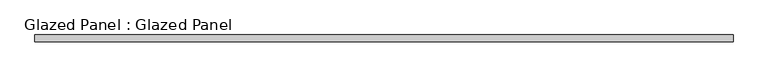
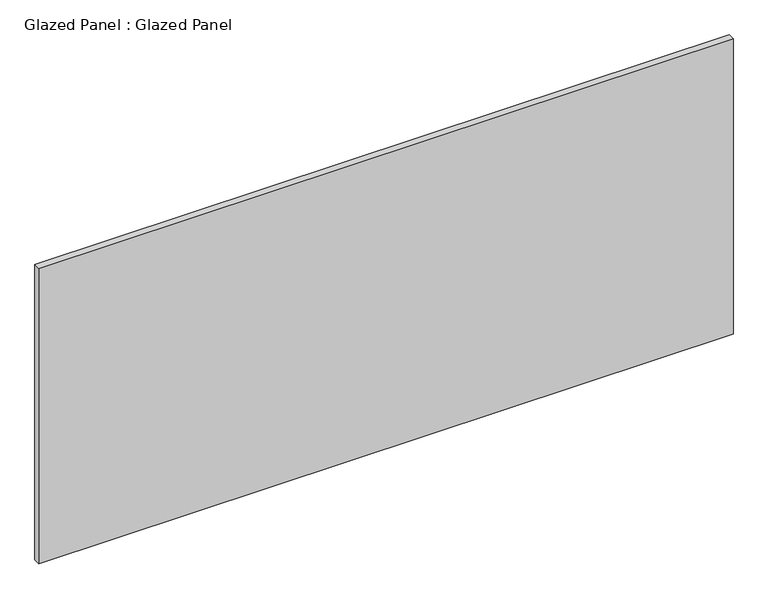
"""IFC4 building model written with IfcOpenShell, lengths in millimetres: plate geometry, Glazed Panel : Glazed Panel."""

from ifc_helpers import new_model, si_unit, origin, origin_with_axes, place, context, project, spatial, polyline, outline, extrude, source, transform, mapped, element, save


def glazed_panel_glazed_panel_a164e39c(model_context):
    return source(origin(), model_context, "Body", "SweptSolid", [
        extrude(outline(polyline([(1318.9865007, 38.1), (-1318.9865007, 38.1), (-1318.9865007, 63.5), (1318.9865007, 63.5), (1318.9865007, 38.1)])), origin_with_axes(), (0.0, 0.0, 1.0), 1187.45),
    ])


if __name__ == "__main__":
    model = new_model("IFC4")
    model_context = context("Model", 3, world=origin())
    ifc_project = project(units=[si_unit("LENGTHUNIT", "METRE", prefix="MILLI")], contexts=[model_context])
    site = spatial("IfcSite", under=ifc_project)
    building = spatial("IfcBuilding", under=site)
    placement = place(None, origin())
    glazed_panel_glazed_panel_shape = glazed_panel_glazed_panel_a164e39c(model_context)
    element("IfcPlate", 1, ObjectType="Glazed Panel : Glazed Panel", at=placement, inside=building, context=model_context, shape_type="MappedRepresentation", body=[
        mapped(glazed_panel_glazed_panel_shape, transform((0.0, 0.0, 0.0), x_axis=(1.0, 0.0, 0.0), y_axis=(0.0, 1.0, 0.0), z_axis=(0.0, 0.0, 1.0))),
    ])
    save(model, "model.ifc")
